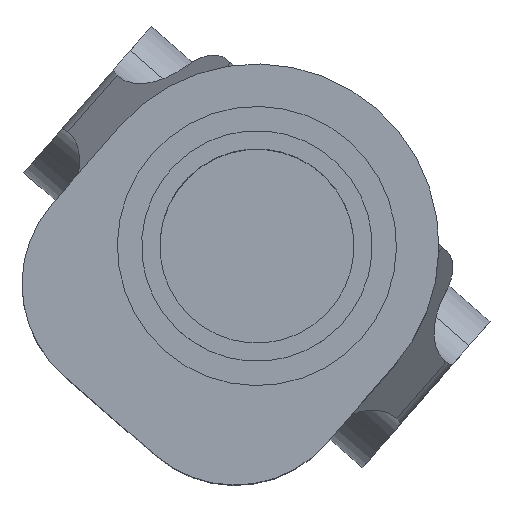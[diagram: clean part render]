
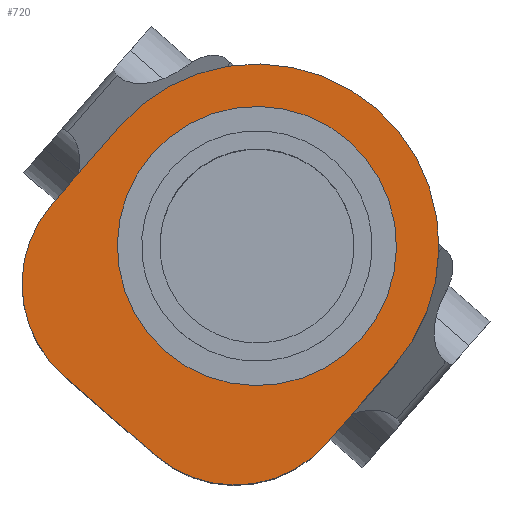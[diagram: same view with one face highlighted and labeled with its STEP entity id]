
A CAD part, top view. The second image highlights one B-rep face of the part: STEP entity #720.
In plain terms, the highlighted planar face has unit normal (0, 0, 1).
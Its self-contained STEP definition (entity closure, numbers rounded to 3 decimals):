
#28 = VERTEX_POINT ( 'NONE', #3620 ) ;
#33 = EDGE_CURVE ( 'NONE', #2479, #28, #948, .T. ) ;
#42 = EDGE_LOOP ( 'NONE', ( #1793, #2131, #603, #1169, #3261, #1331 ) ) ;
#142 = CIRCLE ( 'NONE', #2902, 10. ) ;
#184 = CARTESIAN_POINT ( 'NONE',  ( -82.672, 27.384, 14.78 ) ) ;
#232 = DIRECTION ( 'NONE',  ( 0., 0., 1. ) ) ;
#255 = DIRECTION ( 'NONE',  ( 0., 0., -1. ) ) ;
#262 = CARTESIAN_POINT ( 'NONE',  ( -67.592, 14.246, 14.78 ) ) ;
#308 = CARTESIAN_POINT ( 'NONE',  ( -60.052, 7.677, 14.78 ) ) ;
#351 = ORIENTED_EDGE ( 'NONE', *, *, #33, .T. ) ;
#425 = EDGE_CURVE ( 'NONE', #2367, #2741, #801, .T. ) ;
#444 = EDGE_CURVE ( 'NONE', #1977, #1507, #3276, .T. ) ;
#523 = DIRECTION ( 'NONE',  ( -0.657, -0.754, 0. ) ) ;
#547 = CARTESIAN_POINT ( 'NONE',  ( -65.778, 23.939, 14.78 ) ) ;
#603 = ORIENTED_EDGE ( 'NONE', *, *, #425, .T. ) ;
#720 = ADVANCED_FACE ( 'NONE', ( #943, #3522 ), #3537, .T. ) ;
#782 = CARTESIAN_POINT ( 'NONE',  ( -54.469, 14.086, 14.78 ) ) ;
#801 = LINE ( 'NONE', #3597, #1313 ) ;
#832 = EDGE_CURVE ( 'NONE', #2741, #1814, #142, .T. ) ;
#846 = DIRECTION ( 'NONE',  ( 0., 0., 1. ) ) ;
#939 = LINE ( 'NONE', #3164, #1390 ) ;
#943 = FACE_BOUND ( 'NONE', #2411, .T. ) ;
#948 = CIRCLE ( 'NONE', #2311, 11.5 ) ;
#964 = CIRCLE ( 'NONE', #3021, 11.5 ) ;
#1055 = DIRECTION ( 'NONE',  ( -0.754, 0.657, 0. ) ) ;
#1083 = VECTOR ( 'NONE', #3009, 1000. ) ;
#1169 = ORIENTED_EDGE ( 'NONE', *, *, #832, .T. ) ;
#1313 = VECTOR ( 'NONE', #523, 1000. ) ;
#1331 = ORIENTED_EDGE ( 'NONE', *, *, #2847, .T. ) ;
#1337 = EDGE_CURVE ( 'NONE', #28, #2479, #964, .T. ) ;
#1390 = VECTOR ( 'NONE', #1733, 1000. ) ;
#1507 = VERTEX_POINT ( 'NONE', #2965 ) ;
#1578 = CIRCLE ( 'NONE', #3100, 10. ) ;
#1613 = AXIS2_PLACEMENT_3D ( 'NONE', #3289, #3048, #1885 ) ;
#1627 = AXIS2_PLACEMENT_3D ( 'NONE', #547, #232, #1055 ) ;
#1681 = DIRECTION ( 'NONE',  ( 0., 0., 1. ) ) ;
#1694 = DIRECTION ( 'NONE',  ( 0.754, -0.657, 0. ) ) ;
#1733 = DIRECTION ( 'NONE',  ( 0.754, -0.657, 0. ) ) ;
#1737 = EDGE_CURVE ( 'NONE', #1814, #1988, #939, .T. ) ;
#1754 = CIRCLE ( 'NONE', #1627, 15. ) ;
#1793 = ORIENTED_EDGE ( 'NONE', *, *, #444, .T. ) ;
#1814 = VERTEX_POINT ( 'NONE', #3262 ) ;
#1827 = CARTESIAN_POINT ( 'NONE',  ( -57.108, 16.385, 14.78 ) ) ;
#1850 = EDGE_CURVE ( 'NONE', #1507, #2367, #1754, .T. ) ;
#1885 = DIRECTION ( 'NONE',  ( -0.754, 0.657, 0. ) ) ;
#1961 = DIRECTION ( 'NONE',  ( 0., 0., -1. ) ) ;
#1977 = VERTEX_POINT ( 'NONE', #308 ) ;
#1988 = VERTEX_POINT ( 'NONE', #3160 ) ;
#2017 = DIRECTION ( 'NONE',  ( 0.754, -0.657, 0. ) ) ;
#2131 = ORIENTED_EDGE ( 'NONE', *, *, #1850, .T. ) ;
#2311 = AXIS2_PLACEMENT_3D ( 'NONE', #3107, #1961, #2017 ) ;
#2367 = VERTEX_POINT ( 'NONE', #3246 ) ;
#2411 = EDGE_LOOP ( 'NONE', ( #3314, #351 ) ) ;
#2479 = VERTEX_POINT ( 'NONE', #1827 ) ;
#2486 = CARTESIAN_POINT ( 'NONE',  ( -65.778, 23.939, 14.78 ) ) ;
#2741 = VERTEX_POINT ( 'NONE', #184 ) ;
#2847 = EDGE_CURVE ( 'NONE', #1988, #1977, #1578, .T. ) ;
#2902 = AXIS2_PLACEMENT_3D ( 'NONE', #3075, #846, #1694 ) ;
#2965 = CARTESIAN_POINT ( 'NONE',  ( -54.469, 14.086, 14.78 ) ) ;
#3009 = DIRECTION ( 'NONE',  ( 0.657, 0.754, 0. ) ) ;
#3021 = AXIS2_PLACEMENT_3D ( 'NONE', #2486, #255, #3059 ) ;
#3048 = DIRECTION ( 'NONE',  ( 0., 0., 1. ) ) ;
#3059 = DIRECTION ( 'NONE',  ( 0.754, -0.657, 0. ) ) ;
#3075 = CARTESIAN_POINT ( 'NONE',  ( -75.132, 20.815, 14.78 ) ) ;
#3100 = AXIS2_PLACEMENT_3D ( 'NONE', #262, #1681, #3560 ) ;
#3107 = CARTESIAN_POINT ( 'NONE',  ( -65.778, 23.939, 14.78 ) ) ;
#3160 = CARTESIAN_POINT ( 'NONE',  ( -74.161, 6.706, 14.78 ) ) ;
#3164 = CARTESIAN_POINT ( 'NONE',  ( -81.701, 13.275, 14.78 ) ) ;
#3246 = CARTESIAN_POINT ( 'NONE',  ( -77.088, 33.793, 14.78 ) ) ;
#3261 = ORIENTED_EDGE ( 'NONE', *, *, #1737, .T. ) ;
#3262 = CARTESIAN_POINT ( 'NONE',  ( -81.701, 13.275, 14.78 ) ) ;
#3276 = LINE ( 'NONE', #782, #1083 ) ;
#3289 = CARTESIAN_POINT ( 'NONE',  ( -78.916, 8.86, 14.78 ) ) ;
#3314 = ORIENTED_EDGE ( 'NONE', *, *, #1337, .T. ) ;
#3522 = FACE_OUTER_BOUND ( 'NONE', #42, .T. ) ;
#3537 = PLANE ( 'NONE',  #1613 ) ;
#3560 = DIRECTION ( 'NONE',  ( -0.754, 0.657, 0. ) ) ;
#3597 = CARTESIAN_POINT ( 'NONE',  ( -77.088, 33.793, 14.78 ) ) ;
#3620 = CARTESIAN_POINT ( 'NONE',  ( -74.449, 31.494, 14.78 ) ) ;
